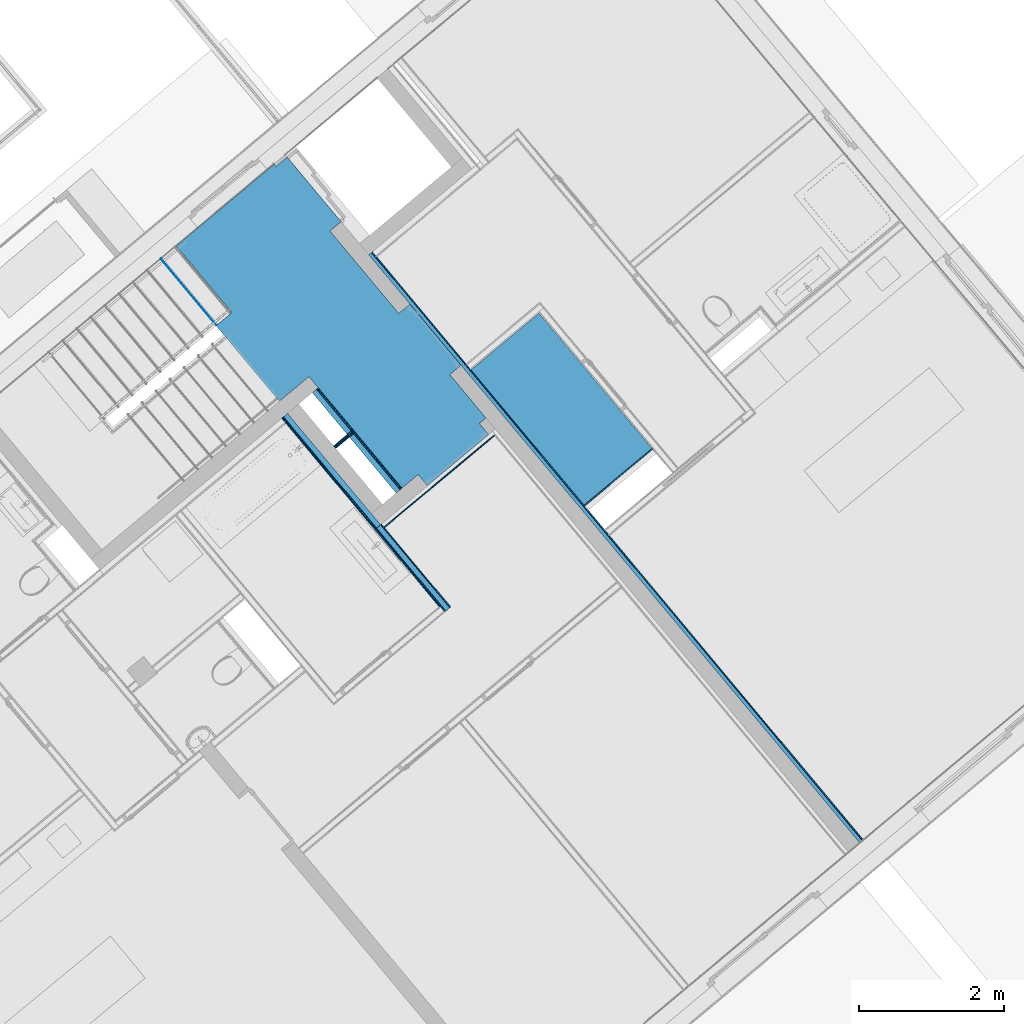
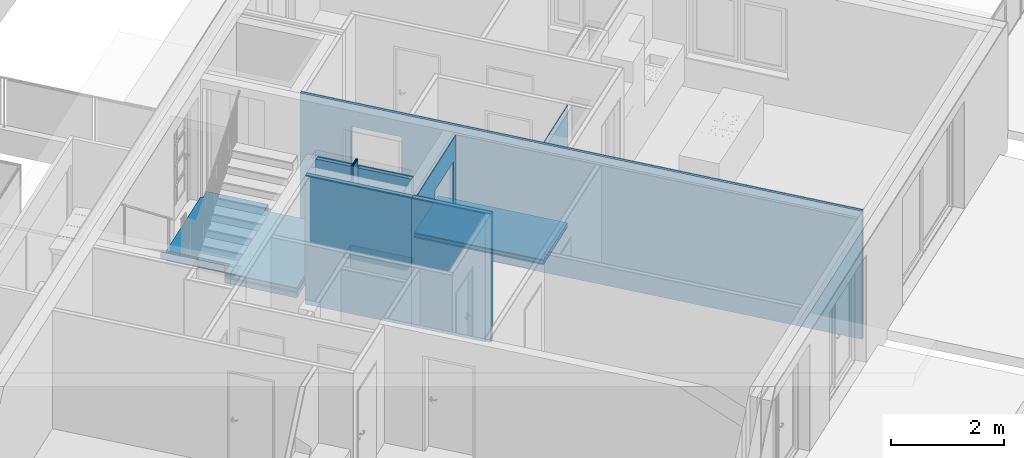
# One storey, part 36 of 75: 25 building element parts, 2 openings, 10 elements without a shape of their own.
"""IFC4 building model written with IfcOpenShell, lengths in metres."""

from ifc_helpers import new_model, entity, si_unit, converted_unit, derived_unit, direction, frame, origin_with_axes, place, context, subcontext, project, spatial, polygons, material, type_object, element, aggregate, save


model = new_model("IFC4")

# Units and contexts
model_context = context("Model", 3, precision=1e-05, world=origin_with_axes(), true_north=direction((0.0, 1.0)))
body_context = subcontext(model_context, "Body", "Model", "MODEL_VIEW")
ifc_project = project(units=[si_unit("LENGTHUNIT", "METRE"), si_unit("AREAUNIT", "SQUARE_METRE"), si_unit("VOLUMEUNIT", "CUBIC_METRE"), converted_unit("PLANEANGLEUNIT", "DEGREE", entity("IfcPlaneAngleMeasure", 0.0174532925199), si_unit("PLANEANGLEUNIT", "RADIAN"), dimensions=[0, 0, 0, 0, 0, 0, 0]), converted_unit("TIMEUNIT", "Year", entity("IfcTimeMeasure", 31556926.0), si_unit("TIMEUNIT", "SECOND"), dimensions=[0, 0, 1, 0, 0, 0, 0]), si_unit("MASSUNIT", "GRAM", prefix="KILO"), si_unit("THERMODYNAMICTEMPERATUREUNIT", "DEGREE_CELSIUS"), si_unit("LUMINOUSINTENSITYUNIT", "LUMEN"), si_unit("ENERGYUNIT", "JOULE", prefix="MEGA"), derived_unit("THERMALCONDUCTANCEUNIT", [(si_unit("POWERUNIT", "WATT"), 1), (si_unit("LENGTHUNIT", "METRE"), -1), (si_unit("THERMODYNAMICTEMPERATUREUNIT", "KELVIN"), -1)]), derived_unit("SPECIFICHEATCAPACITYUNIT", [(si_unit("ENERGYUNIT", "JOULE"), 1), (si_unit("MASSUNIT", "GRAM", prefix="KILO"), -1), (si_unit("THERMODYNAMICTEMPERATUREUNIT", "KELVIN"), -1)]), derived_unit("MASSDENSITYUNIT", [(si_unit("MASSUNIT", "GRAM", prefix="KILO"), 1), (si_unit("VOLUMEUNIT", "CUBIC_METRE"), -1)])], contexts=[model_context])

# Site, building, storey
site_placement = place(None, frame((-0.00153261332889, -0.00661245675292, 0.0), z_axis=(0.0, 0.0, 1.0), x_axis=(1.0, 0.0, 0.0)))
site = spatial("IfcSite", under=ifc_project, at=site_placement, Name="Gelände", CompositionType="ELEMENT")
building_placement = place(site_placement, origin_with_axes())
building = spatial("IfcBuilding", under=site, at=building_placement, Name="Gebäude", CompositionType="ELEMENT")
storey_placement = place(building_placement, frame((0.0, 0.0, -0.22), z_axis=(0.0, 0.0, 1.0), x_axis=(1.0, 0.0, 0.0)))
storey = spatial("IfcBuildingStorey", under=building, at=storey_placement, Name="EG", CompositionType="ELEMENT", Elevation=-0.22)

# Wall, building element parts
wall_type_1 = type_object("IfcWallType", Name="LB Dreifach Vorsatzschale Schacht 45", PredefinedType="NOTDEFINED")
wall_1_placement = place(storey_placement, frame((1.03476523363, 21.9638652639, 0.0), z_axis=(0.0, 0.0, 1.0), x_axis=(0.767670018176, 0.640845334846, 0.0)))
wall_1 = element("IfcWall", 1, at=wall_1_placement, inside=storey, type_object=wall_type_1, Name="Wand-002", PredefinedType="NOTDEFINED")
ifc_material_1 = material(Name="Gipskarton")
building_element_part_1_placement = place(wall_1_placement, origin_with_axes())
building_element_part_1 = element("IfcBuildingElementPart", 2, at=building_element_part_1_placement, material=ifc_material_1, Name="Gipskarton", PredefinedType="NOTDEFINED", context=body_context, shape_type="Tessellation", body=[
    polygons([(0.320121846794, 0.045, 2.76), (0.320121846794, 0.03, 2.76), (0.320121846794, 0.03, 0.0), (0.320121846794, 0.045, 0.0), (0.245121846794, 0.03, 2.76), (0.245121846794, 0.045, 2.76), (0.245121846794, 0.03, 2.96), (0.0, 0.03, 2.96), (0.0, 0.03, 0.0), (0.0, 0.045, 0.0), (0.0, 0.045, 2.96), (0.245121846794, 0.045, 2.96)], [[[1, 2, 3, 4]], [[5, 2, 1, 6]], [[5, 7, 8, 9, 3, 2]], [[4, 3, 9, 10]], [[6, 1, 4, 10, 11, 12]], [[12, 7, 5, 6]], [[7, 12, 11, 8]], [[11, 10, 9, 8]]], closed=True),
])
building_element_part_2_placement = place(wall_1_placement, origin_with_axes())
building_element_part_2 = element("IfcBuildingElementPart", 3, at=building_element_part_2_placement, material=ifc_material_1, Name="Gipskarton", PredefinedType="NOTDEFINED", context=body_context, shape_type="Tessellation", body=[
    polygons([(0.320121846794, 0.03, 2.76), (0.320121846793, 0.015, 2.76), (0.320121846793, 0.015, 0.0), (0.320121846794, 0.03, 0.0), (0.245121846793, 0.015, 2.76), (0.245121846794, 0.03, 2.76), (0.245121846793, 0.015, 2.96), (0.0, 0.015, 2.96), (0.0, 0.015, 0.0), (0.0, 0.03, 0.0), (0.0, 0.03, 2.96), (0.245121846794, 0.03, 2.96)], [[[1, 2, 3, 4]], [[5, 2, 1, 6]], [[5, 7, 8, 9, 3, 2]], [[4, 3, 9, 10]], [[6, 1, 4, 10, 11, 12]], [[12, 7, 5, 6]], [[7, 12, 11, 8]], [[11, 10, 9, 8]]], closed=True),
])
building_element_part_3_placement = place(wall_1_placement, origin_with_axes())
building_element_part_3 = element("IfcBuildingElementPart", 4, at=building_element_part_3_placement, material=ifc_material_1, Name="Gipskarton", PredefinedType="NOTDEFINED", context=body_context, shape_type="Tessellation", body=[
    polygons([(0.320121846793, 0.015, 2.76), (0.320121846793, 0.0, 2.76), (0.320121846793, 0.0, 0.0), (0.320121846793, 0.015, 0.0), (0.245121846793, 0.0, 2.76), (0.245121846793, 0.015, 2.76), (0.245121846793, 0.0, 2.96), (0.0, 0.0, 2.96), (0.0, 0.0, 0.0), (0.0, 0.015, 0.0), (0.0, 0.015, 2.96), (0.245121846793, 0.015, 2.96)], [[[1, 2, 3, 4]], [[5, 2, 1, 6]], [[5, 7, 8, 9, 3, 2]], [[4, 3, 9, 10]], [[6, 1, 4, 10, 11, 12]], [[12, 7, 5, 6]], [[7, 12, 11, 8]], [[11, 10, 9, 8]]], closed=True),
])
aggregate(wall_1, [building_element_part_1, building_element_part_2, building_element_part_3])

wall_type_2 = type_object("IfcWallType", Name="LB 10,5 cm doppelte Vorsatzschale Bad 105", PredefinedType="NOTDEFINED")
wall_2_placement = place(storey_placement, frame((0.71304114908, 22.7317569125, 0.0), z_axis=(0.0, 0.0, 1.0), x_axis=(0.640845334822, -0.767670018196, 0.0)))
wall_2 = element("IfcWall", 5, at=wall_2_placement, inside=storey, type_object=wall_type_2, Name="Wand-004", PredefinedType="NOTDEFINED")
building_element_part_4_placement = place(wall_2_placement, origin_with_axes())
building_element_part_4 = element("IfcBuildingElementPart", 6, at=building_element_part_4_placement, material=ifc_material_1, Name="Gipskarton", PredefinedType="NOTDEFINED", context=body_context, shape_type="Tessellation", body=[
    polygons([(0.0, 0.105, 2.76), (1.80140621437, 0.105, 2.76), (1.80140621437, 0.105, 0.0), (0.0, 0.105, 0.0), (0.0, 0.09, 2.76), (1.80140621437, 0.09, 2.76), (1.80140621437, 0.09, 0.0), (0.0, 0.09, 0.0)], [[[1, 2, 3, 4]], [[2, 1, 5, 6]], [[7, 3, 2, 6]], [[4, 3, 7, 8]], [[5, 1, 4, 8]], [[6, 5, 8, 7]]], closed=True),
])
building_element_part_5_placement = place(wall_2_placement, origin_with_axes())
building_element_part_5 = element("IfcBuildingElementPart", 7, at=building_element_part_5_placement, material=ifc_material_1, Name="Gipskarton", PredefinedType="NOTDEFINED", context=body_context, shape_type="Tessellation", body=[
    polygons([(0.0, 0.09, 2.76), (1.80140621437, 0.09, 2.76), (1.80140621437, 0.09, 0.0), (0.0, 0.09, 0.0), (0.0, 0.075, 2.76), (1.80140621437, 0.075, 2.76), (1.80140621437, 0.075, 0.0), (0.0, 0.075, 0.0)], [[[1, 2, 3, 4]], [[2, 1, 5, 6]], [[7, 3, 2, 6]], [[4, 3, 7, 8]], [[5, 1, 4, 8]], [[6, 5, 8, 7]]], closed=True),
])
ifc_material_2 = material(Name="Mineralwolle weich")
building_element_part_6_placement = place(wall_2_placement, origin_with_axes())
building_element_part_6 = element("IfcBuildingElementPart", 8, at=building_element_part_6_placement, material=ifc_material_2, Name="Mineralwolle weich", PredefinedType="NOTDEFINED", context=body_context, shape_type="Tessellation", body=[
    polygons([(0.0, 0.075, 2.76), (0.750662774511, 0.075, 2.76), (0.750662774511, 0.075, 0.0), (0.0, 0.075, 0.0), (0.750662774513, 0.0, 2.76), (0.0, 0.0, 2.76), (0.750662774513, 0.0, 0.0), (0.0, 0.0, 0.0)], [[[1, 2, 3, 4]], [[5, 2, 1, 6]], [[2, 5, 7, 3]], [[3, 7, 8, 4]], [[6, 1, 4, 8]], [[5, 6, 8, 7]]], closed=True),
    polygons([(0.795662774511, 0.075, 2.76), (1.80140621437, 0.075, 2.76), (1.80140621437, 0.075, 0.0), (0.795662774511, 0.075, 0.0), (0.795662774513, 0.0, 2.76), (1.80140621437, 0.0, 2.76), (1.80140621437, 0.0, 0.0), (0.795662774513, 0.0, 0.0)], [[[1, 2, 3, 4]], [[2, 1, 5, 6]], [[7, 3, 2, 6]], [[4, 3, 7, 8]], [[5, 1, 4, 8]], [[6, 5, 8, 7]]], closed=True),
])
aggregate(wall_2, [building_element_part_4, building_element_part_5, building_element_part_6])

# Wall, opening, building element parts
wall_type_3 = type_object("IfcWallType", Name="LB 6,5 cm einfach Vorsatzschale 65", PredefinedType="NOTDEFINED")
wall_3_placement = place(storey_placement, frame((8.52691718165, 16.2033509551, 0.0), z_axis=(0.0, 0.0, 1.0), x_axis=(-0.640845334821, 0.767670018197, 0.0)))
wall_3 = element("IfcWall", 9, at=wall_3_placement, inside=storey, type_object=wall_type_3, Name="Wand-004", PredefinedType="NOTDEFINED")
opening_1_placement = place(wall_3_placement, frame((9.5452099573, 0.0, 0.22), z_axis=(0.0, 0.0, 1.0), x_axis=(1.0, 0.0, 0.0)))
element("IfcOpeningElement", 10, at=opening_1_placement, cuts=wall_3, Name="Tür-001", context=body_context, identifier="Reference", shape_type="Tessellation", body=[
    polygons([(0.475, 5.40229540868, 2.05), (0.475, 5.40229540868, -0.22), (-0.475, 5.40229540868, -0.22), (-0.475, 5.40229540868, 2.05), (0.475, -5.46729540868, 2.05), (0.475, -5.46729540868, -0.22), (-0.475, -5.46729540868, -0.22), (-0.475, -5.46729540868, 2.05)], [[[1, 2, 3, 4]], [[5, 6, 2, 1]], [[6, 7, 3, 2]], [[7, 8, 4, 3]], [[8, 5, 1, 4]], [[7, 6, 5, 8]]], closed=True),
])
building_element_part_7_placement = place(wall_3_placement, origin_with_axes())
building_element_part_7 = element("IfcBuildingElementPart", 11, at=building_element_part_7_placement, material=ifc_material_2, Name="Mineralwolle weich", PredefinedType="NOTDEFINED", context=body_context, shape_type="Tessellation", body=[
    polygons([(10.0202099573, -0.05, 2.27), (10.0202099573, -0.05, 0.22), (10.0202099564, -0.05, 0.0), (10.9791855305, -0.05, 0.0), (10.9791855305, -0.05, 2.76), (0.42005655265, -0.05, 2.76), (0.420056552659, -0.05, 0.0), (9.07020996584, -0.05, 0.0), (9.0702099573, -0.05, 0.22), (9.0702099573, -0.05, 2.27), (10.0202099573, 1.37716078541e-08, 2.27), (10.0202099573, 2.38013022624e-08, 0.22), (10.0202099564, 2.38013022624e-08, 0.0), (10.9791855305, 0.0, 0.0), (10.9791855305, 0.0, 2.76), (0.420000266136, 0.0, 2.76), (0.420000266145, 0.0, 0.0), (9.07020996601, 1.37716043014e-08, 0.0), (9.0702099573, 1.37716043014e-08, 0.22), (9.0702099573, 1.37716078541e-08, 2.27)], [[[1, 2, 3, 4, 5, 6, 7, 8, 9, 10]], [[2, 1, 11, 12]], [[2, 12, 13, 3]], [[13, 14, 4, 3]], [[5, 4, 14, 15]], [[5, 15, 16, 6]], [[16, 17, 7, 6]], [[8, 7, 17, 18]], [[19, 9, 8, 18]], [[10, 9, 19, 20]], [[1, 10, 20, 11]], [[20, 19, 18, 17, 16, 15, 14, 13, 12, 11]]], closed=True),
])
building_element_part_8_placement = place(wall_3_placement, origin_with_axes())
building_element_part_8 = element("IfcBuildingElementPart", 12, at=building_element_part_8_placement, material=ifc_material_1, Name="Gipskarton", PredefinedType="NOTDEFINED", context=body_context, shape_type="Tessellation", body=[
    polygons([(10.0202099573, -0.065, 2.27), (10.0202099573, -0.065, 0.22), (10.0202099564, -0.065, 0.0), (10.9791855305, -0.065, 0.0), (10.9791855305, -0.065, 2.76), (6.33854365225, -0.065, 2.76), (5.98873788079, -0.065, 2.76), (0.420073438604, -0.065, 2.76), (0.420073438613, -0.065, 0.0), (9.07020996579, -0.065, 0.0), (9.0702099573, -0.065, 0.22), (9.0702099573, -0.065, 2.27), (10.0202099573, -0.05, 2.27), (10.0202099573, -0.0499999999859, 0.22), (10.0202099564, -0.05, 0.0), (10.9791855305, -0.05, 0.0), (10.9791855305, -0.05, 2.76), (0.42005655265, -0.05, 2.76), (0.420056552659, -0.05, 0.0), (9.07020996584, -0.05, 0.0), (9.0702099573, -0.0499999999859, 0.22), (9.0702099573, -0.05, 2.27)], [[[1, 2, 3, 4, 5, 6, 7, 8, 9, 10, 11, 12]], [[2, 1, 13, 14]], [[2, 14, 15, 3]], [[15, 16, 4, 3]], [[5, 4, 16, 17]], [[18, 8, 7, 6, 5, 17]], [[18, 19, 9, 8]], [[10, 9, 19, 20]], [[21, 11, 10, 20]], [[12, 11, 21, 22]], [[1, 12, 22, 13]], [[22, 21, 20, 19, 18, 17, 16, 15, 14, 13]]], closed=True),
])
aggregate(wall_3, [building_element_part_7, building_element_part_8])

# Wall, opening, building element part
wall_4_placement = place(storey_placement, frame((3.22700750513, 22.1386079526, 0.0), z_axis=(0.0, 0.0, 1.0), x_axis=(-0.767669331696, -0.64084615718, 0.0)))
wall_4 = element("IfcWall", 13, at=wall_4_placement, inside=storey, type_object=wall_type_3, Name="Wand-005", PredefinedType="NOTDEFINED")
opening_2_placement = place(wall_4_placement, frame((0.603737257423, 0.0, 0.22), z_axis=(0.0, 0.0, 1.0), x_axis=(1.0, 0.0, 0.0)))
element("IfcOpeningElement", 14, at=opening_2_placement, cuts=wall_4, Name="Tür-001", context=body_context, identifier="Reference", shape_type="Tessellation", body=[
    polygons([(-0.475, -1.03980321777, 2.05), (-0.475, -1.03980321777, -0.22), (0.475, -1.03980321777, -0.22), (0.475, -1.03980321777, 2.05), (-0.475, 0.974803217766, 2.05), (-0.475, 0.974803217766, -0.22), (0.475, 0.974803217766, -0.22), (0.475, 0.974803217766, 2.05)], [[[1, 2, 3, 4]], [[5, 6, 2, 1]], [[6, 7, 3, 2]], [[7, 8, 4, 3]], [[8, 5, 1, 4]], [[7, 6, 5, 8]]], closed=True),
])
building_element_part_9_placement = place(wall_4_placement, origin_with_axes())
building_element_part_9 = element("IfcBuildingElementPart", 15, at=building_element_part_9_placement, material=ifc_material_1, Name="Gipskarton", PredefinedType="NOTDEFINED", context=body_context, shape_type="Tessellation", body=[
    polygons([(1.07873725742, 0.0, 0.0), (1.07873725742, 0.0, 2.27), (0.128737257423, 0.0, 2.27), (0.128737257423, 0.0, 0.0), (0.0, 0.0, 0.0), (0.0, 0.0, 2.76), (1.97944404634, 0.0, 2.76), (1.97944404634, 0.0, 0.0), (1.07873725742, -0.015, 0.0), (1.07873725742, -0.015, 2.27), (0.128737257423, -0.015, 2.27), (0.128737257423, -0.015, 0.0), (-1.60686610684e-08, -0.015, 0.0), (-1.60686646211e-08, -0.015, 2.76), (1.97944404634, -0.015, 2.76), (1.97944404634, -0.015, 0.0)], [[[1, 2, 3, 4, 5, 6, 7, 8]], [[2, 1, 9, 10]], [[3, 2, 10, 11]], [[4, 3, 11, 12]], [[4, 12, 13, 5]], [[6, 5, 13, 14]], [[6, 14, 15, 7]], [[15, 16, 8, 7]], [[9, 1, 8, 16]], [[10, 9, 16, 15, 14, 13, 12, 11]]], closed=True),
])
aggregate(wall_4, [building_element_part_9])

# Wall, building element parts
wall_5_placement = place(storey_placement, frame((0.371124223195, 22.44598682, 0.0), z_axis=(0.0, 0.0, 1.0), x_axis=(0.641209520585, -0.767365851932, 0.0)))
wall_5 = element("IfcWall", 16, at=wall_5_placement, inside=storey, type_object=wall_type_2, Name="Wand-004", PredefinedType="NOTDEFINED")
building_element_part_10_placement = place(wall_5_placement, origin_with_axes())
building_element_part_10 = element("IfcBuildingElementPart", 17, at=building_element_part_10_placement, material=ifc_material_2, Name="Mineralwolle weich", PredefinedType="NOTDEFINED", context=body_context, shape_type="Tessellation", body=[
    polygons([(0.0, -7.15256476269e-09, 2.76), (2.00114517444, 0.0, 2.76), (2.10114517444, 0.0, 2.76), (2.10114517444, 0.0, 0.0), (0.0, -7.15256476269e-09, 0.0), (2.00114517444, -0.075, 2.76), (2.25696794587e-10, -0.0750000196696, 2.76), (2.10114517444, -0.075, 2.76), (2.10114517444, -0.075, 0.0), (0.0, -0.0750000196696, 0.0)], [[[1, 2, 3, 4, 5]], [[6, 2, 1, 7]], [[2, 6, 8, 3]], [[9, 4, 3, 8]], [[4, 9, 10, 5]], [[7, 1, 5, 10]], [[6, 7, 10, 9, 8]]], closed=True),
])
building_element_part_11_placement = place(wall_5_placement, origin_with_axes())
building_element_part_11 = element("IfcBuildingElementPart", 18, at=building_element_part_11_placement, material=ifc_material_1, Name="Gipskarton", PredefinedType="NOTDEFINED", context=body_context, shape_type="Tessellation", body=[
    polygons([(2.25696794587e-10, -0.0750000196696, 2.76), (2.00114517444, -0.075, 2.76), (2.10114517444, -0.075, 2.76), (2.10114517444, -0.075, 0.0), (0.0, -0.0750000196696, 0.0), (2.00114517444, -0.09, 2.76), (2.7083757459e-10, -0.09, 2.76), (2.10114517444, -0.09, 2.76), (2.10114517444, -0.09, 0.0), (0.0, -0.09, 0.0)], [[[1, 2, 3, 4, 5]], [[6, 2, 1, 7]], [[2, 6, 8, 3]], [[9, 4, 3, 8]], [[4, 9, 10, 5]], [[7, 1, 5, 10]], [[6, 7, 10, 9, 8]]], closed=True),
])
building_element_part_12_placement = place(wall_5_placement, origin_with_axes())
building_element_part_12 = element("IfcBuildingElementPart", 19, at=building_element_part_12_placement, material=ifc_material_1, Name="Gipskarton", PredefinedType="NOTDEFINED", context=body_context, shape_type="Tessellation", body=[
    polygons([(0.0900000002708, -0.09, 2.76), (2.00114517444, -0.09, 2.76), (2.10114517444, -0.09, 2.76), (2.10114517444, -0.09, 0.0), (0.0, -0.09, 0.0), (2.70841127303e-10, -0.09, 2.76), (2.00114517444, -0.105, 2.76), (0.090000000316, -0.105, 2.76), (2.10114517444, -0.105, 2.76), (2.10114517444, -0.105, 0.0), (0.0, -0.105, 0.0), (3.15981907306e-10, -0.105, 2.76)], [[[1, 2, 3, 4, 5, 6]], [[7, 2, 1, 8]], [[2, 7, 9, 3]], [[10, 4, 3, 9]], [[4, 10, 11, 5]], [[11, 12, 6, 5]], [[8, 1, 6, 12]], [[7, 8, 12, 11, 10, 9]]], closed=True),
])
aggregate(wall_5, [building_element_part_10, building_element_part_11, building_element_part_12])

wall_type_4 = type_object("IfcWallType", Name="LB 13 cm doppelte Vorsatzschale Bad  120", PredefinedType="NOTDEFINED")
wall_6_placement = place(storey_placement, frame((1.57370414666, 20.8430493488, 0.0), z_axis=(0.0, 0.0, 1.0), x_axis=(0.641149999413, -0.767415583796, 0.0)))
wall_6 = element("IfcWall", 20, at=wall_6_placement, inside=storey, type_object=wall_type_4, Name="Wand-013", PredefinedType="NOTDEFINED")
ifc_material_3 = material(Name="Gipsputz")
building_element_part_13_placement = place(wall_6_placement, origin_with_axes())
building_element_part_13 = element("IfcBuildingElementPart", 21, at=building_element_part_13_placement, material=ifc_material_3, Name="Gipsputz", PredefinedType="NOTDEFINED", context=body_context, shape_type="Tessellation", body=[
    polygons([(0.0, 0.12, 2.76), (1.48844578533, 0.12, 2.76), (1.48844578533, 0.12, 0.0), (0.0, 0.12, 0.0), (1.48844694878, 0.105, 2.76), (0.0, 0.105, 2.76), (1.48844694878, 0.105, 0.0), (0.0, 0.105, 0.0)], [[[1, 2, 3, 4]], [[5, 2, 1, 6]], [[2, 5, 7, 3]], [[3, 7, 8, 4]], [[6, 1, 4, 8]], [[5, 6, 8, 7]]], closed=True),
])
building_element_part_14_placement = place(wall_6_placement, origin_with_axes())
building_element_part_14 = element("IfcBuildingElementPart", 22, at=building_element_part_14_placement, material=ifc_material_2, Name="Mineralwolle weich", PredefinedType="NOTDEFINED", context=body_context, shape_type="Tessellation", body=[
    polygons([(0.0, 0.105, 2.76), (1.48844694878, 0.105, 2.76), (1.48844694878, 0.105, 0.0), (0.0, 0.105, 0.0), (1.48845276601, 0.03, 2.76), (0.0, 0.03, 2.76), (1.48845276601, 0.03, 0.0), (0.0, 0.03, 0.0)], [[[1, 2, 3, 4]], [[5, 2, 1, 6]], [[2, 5, 7, 3]], [[3, 7, 8, 4]], [[6, 1, 4, 8]], [[5, 6, 8, 7]]], closed=True),
])
building_element_part_15_placement = place(wall_6_placement, origin_with_axes())
building_element_part_15 = element("IfcBuildingElementPart", 23, at=building_element_part_15_placement, material=ifc_material_1, Name="Gipskarton", PredefinedType="NOTDEFINED", context=body_context, shape_type="Tessellation", body=[
    polygons([(0.0, 0.03, 2.76), (1.47345276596, 0.03, 2.76), (1.47345276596, 0.03, 0.0), (0.0, 0.03, 0.0), (1.47345392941, 0.015, 2.76), (0.0, 0.015, 2.76), (1.47345392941, 0.015, 0.0), (0.0, 0.015, 0.0)], [[[1, 2, 3, 4]], [[5, 2, 1, 6]], [[2, 5, 7, 3]], [[3, 7, 8, 4]], [[6, 1, 4, 8]], [[5, 6, 8, 7]]], closed=True),
])
building_element_part_16_placement = place(wall_6_placement, origin_with_axes())
building_element_part_16 = element("IfcBuildingElementPart", 24, at=building_element_part_16_placement, material=ifc_material_1, Name="Gipskarton", PredefinedType="NOTDEFINED", context=body_context, shape_type="Tessellation", body=[
    polygons([(0.0, 0.015, 2.76), (1.38345392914, 0.015, 2.76), (1.38345392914, 0.015, 0.0), (0.0, 0.015, 0.0), (1.38345509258, 0.0, 2.76), (0.0, 0.0, 2.76), (1.38345509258, 0.0, 0.0), (0.0, 0.0, 0.0)], [[[1, 2, 3, 4]], [[5, 2, 1, 6]], [[2, 5, 7, 3]], [[3, 7, 8, 4]], [[6, 1, 4, 8]], [[5, 6, 8, 7]]], closed=True),
])
aggregate(wall_6, [building_element_part_13, building_element_part_14, building_element_part_15, building_element_part_16])

# Wall, building element part
wall_type_5 = type_object("IfcWallType", Name="LB 9,0 cm einfache Vorsatzschale  90", PredefinedType="NOTDEFINED")
wall_7_placement = place(storey_placement, frame((4.46491081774, 21.0692371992, 0.0), z_axis=(0.0, 0.0, 1.0), x_axis=(0.767365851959, 0.641209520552, 0.0)))
wall_7 = element("IfcWall", 25, at=wall_7_placement, inside=storey, type_object=wall_type_5, Name="Wand-006", PredefinedType="NOTDEFINED")
building_element_part_17_placement = place(wall_7_placement, origin_with_axes())
building_element_part_17 = element("IfcBuildingElementPart", 26, at=building_element_part_17_placement, material=ifc_material_1, Name="Gipskarton", PredefinedType="NOTDEFINED", context=body_context, shape_type="Tessellation", body=[
    polygons([(1.28718371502, 0.09, 2.76), (1.28718371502, 0.075, 2.76), (1.28718371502, 0.075, 0.0), (1.28718371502, 0.09, 0.0), (0.0650355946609, 0.0750000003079, 2.76), (0.0650427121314, 0.0900000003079, 2.76), (0.0650355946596, 0.0750000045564, 0.0), (0.0650427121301, 0.0900000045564, 0.0)], [[[1, 2, 3, 4]], [[5, 2, 1, 6]], [[2, 5, 7, 3]], [[3, 7, 8, 4]], [[6, 1, 4, 8]], [[5, 6, 8, 7]]], closed=True),
])
aggregate(wall_7, [building_element_part_17])

# Covering, building element parts
covering_type = type_object("IfcCoveringType", Name="DE 01 Decke Wohnung/Wohnung Fließen 220", PredefinedType="NOTDEFINED")
covering_1_placement = place(storey_placement, frame((2.89957040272, 23.0457904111, 0.22), z_axis=(0.0, 0.0, 1.0), x_axis=(1.0, 0.0, 0.0)))
covering_1 = element("IfcCovering", 27, at=covering_1_placement, inside=storey, type_object=covering_type, Name="Decke-001", PredefinedType="NOTDEFINED")
ifc_material_4 = material(Name="Fliesen")
building_element_part_18_placement = place(covering_1_placement, origin_with_axes())
building_element_part_18 = element("IfcBuildingElementPart", 28, at=building_element_part_18_placement, material=ifc_material_4, Name="Fliesen", PredefinedType="NOTDEFINED", context=body_context, shape_type="Tessellation", body=[
    polygons([(1.55754311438, -1.86578427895, -0.015), (1.55754311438, -1.86578427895, 0.0), (0.0, 0.0, 0.0), (0.0, 0.0, -0.015), (2.49537238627, -1.0821358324, -0.015), (2.49537238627, -1.0821358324, 0.0), (0.936944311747, 0.782908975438, 0.0), (0.936944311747, 0.782908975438, -0.015)], [[[1, 2, 3, 4]], [[5, 6, 2, 1]], [[3, 2, 6, 7]], [[4, 3, 7, 8]], [[4, 8, 5, 1]], [[8, 7, 6, 5]]], closed=True),
])
ifc_material_5 = material(Name="Estrich")
building_element_part_19_placement = place(covering_1_placement, origin_with_axes())
building_element_part_19 = element("IfcBuildingElementPart", 29, at=building_element_part_19_placement, material=ifc_material_5, Name="Estrich", PredefinedType="NOTDEFINED", context=body_context, shape_type="Tessellation", body=[
    polygons([(1.55754311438, -1.86578427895, -0.08), (1.55754311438, -1.86578427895, -0.015), (0.0, 0.0, -0.015), (0.0, 0.0, -0.08), (2.49537238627, -1.0821358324, -0.08), (2.49537238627, -1.0821358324, -0.015), (0.936944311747, 0.782908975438, -0.015), (0.936944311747, 0.782908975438, -0.08)], [[[1, 2, 3, 4]], [[5, 6, 2, 1]], [[3, 2, 6, 7]], [[4, 3, 7, 8]], [[4, 8, 5, 1]], [[8, 7, 6, 5]]], closed=True),
])
ifc_material_6 = material(Name="Trittschalldämmung")
building_element_part_20_placement = place(covering_1_placement, origin_with_axes())
building_element_part_20 = element("IfcBuildingElementPart", 30, at=building_element_part_20_placement, material=ifc_material_6, Name="Trittschalldämmung", PredefinedType="NOTDEFINED", context=body_context, shape_type="Tessellation", body=[
    polygons([(1.55754311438, -1.86578427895, -0.11), (1.55754311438, -1.86578427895, -0.08), (0.0, 0.0, -0.08), (0.0, 0.0, -0.11), (2.49537238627, -1.0821358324, -0.11), (2.49537238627, -1.0821358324, -0.08), (0.936944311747, 0.782908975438, -0.08), (0.936944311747, 0.782908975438, -0.11)], [[[1, 2, 3, 4]], [[5, 6, 2, 1]], [[3, 2, 6, 7]], [[4, 3, 7, 8]], [[4, 8, 5, 1]], [[8, 7, 6, 5]]], closed=True),
])
aggregate(covering_1, [building_element_part_18, building_element_part_19, building_element_part_20])

covering_2_placement = place(storey_placement, frame((0.186433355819, 25.8823468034, 0.22), z_axis=(0.0, 0.0, 1.0), x_axis=(1.0, 0.0, 0.0)))
covering_2 = element("IfcCovering", 31, at=covering_2_placement, inside=storey, type_object=covering_type, Name="Decke-001", PredefinedType="NOTDEFINED")
building_element_part_21_placement = place(covering_2_placement, origin_with_axes())
building_element_part_21 = element("IfcBuildingElementPart", 32, at=building_element_part_21_placement, material=ifc_material_4, Name="Fliesen", PredefinedType="NOTDEFINED", context=body_context, shape_type="Tessellation", body=[
    polygons([(0.0714545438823, -3.27034813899, -0.015), (0.286905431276, -3.09031781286, -0.015), (0.478971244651, -2.92982796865, -0.015), (0.478971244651, -2.92982796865, 0.0), (0.286905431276, -3.09031781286, 0.0), (0.0714545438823, -3.27034813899, 0.0), (-0.800488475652, -2.22683976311, -0.015), (-0.584981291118, -2.04678108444, -0.015), (-1.35152231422, -1.12932957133, -0.015), (0.0, 0.0, -0.015), (0.0263065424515, -0.0315126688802, -0.015), (0.179840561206, 0.0966564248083, -0.015), (0.923221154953, -0.793840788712, -0.015), (0.769687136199, -0.922009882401, -0.015), (1.71748165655, -2.05737494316, -0.015), (1.87101560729, -1.92920584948, -0.015), (2.57594545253, -2.77364288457, -0.015), (2.42241150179, -2.90181197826, -0.015), (2.92064867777, -3.49865129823, -0.015), (2.82949713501, -3.57474389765, -0.015), (2.9576662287, -3.72827791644, -0.015), (2.11322919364, -4.43320776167, -0.015), (1.98506009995, -4.27967374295, -0.015), (1.76163589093, -4.4661866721, -0.015), (0.607213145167, -3.08330113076, -0.015), (0.607213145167, -3.08330113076, 0.0), (1.76163589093, -4.4661866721, 0.0), (1.98506009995, -4.27967374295, 0.0), (2.11322919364, -4.43320776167, 0.0), (2.9576662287, -3.72827791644, 0.0), (2.82949713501, -3.57474389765, 0.0), (2.92064867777, -3.49865129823, 0.0), (2.42241150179, -2.90181197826, 0.0), (2.57594545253, -2.77364288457, 0.0), (1.87101560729, -1.92920584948, 0.0), (1.71748165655, -2.05737494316, 0.0), (0.769687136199, -0.922009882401, 0.0), (0.923221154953, -0.793840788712, 0.0), (0.179840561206, 0.0966564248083, 0.0), (0.0263065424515, -0.0315126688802, 0.0), (0.0, 0.0, 0.0), (-1.35152231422, -1.12932957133, 0.0), (-0.584981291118, -2.04678108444, 0.0), (-0.800488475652, -2.22683976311, 0.0)], [[[1, 2, 3, 4, 5, 6]], [[2, 1, 7, 8, 9, 10, 11, 12, 13, 14, 15, 16, 17, 18, 19, 20, 21, 22, 23, 24, 25, 3]], [[3, 25, 26, 4]], [[6, 5, 4, 26, 27, 28, 29, 30, 31, 32, 33, 34, 35, 36, 37, 38, 39, 40, 41, 42, 43, 44]], [[1, 6, 44, 7]], [[8, 7, 44, 43]], [[9, 8, 43, 42]], [[9, 42, 41, 10]], [[40, 11, 10, 41]], [[11, 40, 39, 12]], [[12, 39, 38, 13]], [[37, 14, 13, 38]], [[37, 36, 15, 14]], [[15, 36, 35, 16]], [[34, 17, 16, 35]], [[33, 18, 17, 34]], [[18, 33, 32, 19]], [[31, 20, 19, 32]], [[20, 31, 30, 21]], [[29, 22, 21, 30]], [[28, 23, 22, 29]], [[27, 24, 23, 28]], [[26, 25, 24, 27]]], closed=True),
])
building_element_part_22_placement = place(covering_2_placement, origin_with_axes())
building_element_part_22 = element("IfcBuildingElementPart", 33, at=building_element_part_22_placement, material=ifc_material_5, Name="Estrich", PredefinedType="NOTDEFINED", context=body_context, shape_type="Tessellation", body=[
    polygons([(0.0714545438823, -3.27034813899, -0.08), (0.286905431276, -3.09031781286, -0.08), (0.478971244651, -2.92982796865, -0.08), (0.478971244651, -2.92982796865, -0.015), (0.286905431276, -3.09031781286, -0.015), (0.0714545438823, -3.27034813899, -0.015), (-0.800488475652, -2.22683976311, -0.08), (-0.584981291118, -2.04678108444, -0.08), (-1.35152231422, -1.12932957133, -0.08), (0.0, 0.0, -0.08), (0.0263065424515, -0.0315126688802, -0.08), (0.179840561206, 0.0966564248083, -0.08), (0.923221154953, -0.793840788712, -0.08), (0.769687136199, -0.922009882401, -0.08), (1.71748165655, -2.05737494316, -0.08), (1.87101560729, -1.92920584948, -0.08), (2.57594545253, -2.77364288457, -0.08), (2.42241150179, -2.90181197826, -0.08), (2.92064867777, -3.49865129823, -0.08), (2.82949713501, -3.57474389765, -0.08), (2.9576662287, -3.72827791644, -0.08), (2.11322919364, -4.43320776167, -0.08), (1.98506009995, -4.27967374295, -0.08), (1.76163589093, -4.4661866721, -0.08), (0.607213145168, -3.08330113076, -0.08), (0.607213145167, -3.08330113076, -0.015), (1.76163589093, -4.4661866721, -0.015), (1.98506009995, -4.27967374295, -0.015), (2.11322919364, -4.43320776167, -0.015), (2.9576662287, -3.72827791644, -0.015), (2.82949713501, -3.57474389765, -0.015), (2.92064867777, -3.49865129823, -0.015), (2.42241150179, -2.90181197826, -0.015), (2.57594545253, -2.77364288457, -0.015), (1.87101560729, -1.92920584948, -0.015), (1.71748165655, -2.05737494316, -0.015), (0.769687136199, -0.922009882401, -0.015), (0.923221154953, -0.793840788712, -0.015), (0.179840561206, 0.0966564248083, -0.015), (0.0263065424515, -0.0315126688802, -0.015), (0.0, 0.0, -0.015), (-1.35152231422, -1.12932957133, -0.015), (-0.584981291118, -2.04678108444, -0.015), (-0.800488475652, -2.22683976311, -0.015)], [[[1, 2, 3, 4, 5, 6]], [[2, 1, 7, 8, 9, 10, 11, 12, 13, 14, 15, 16, 17, 18, 19, 20, 21, 22, 23, 24, 25, 3]], [[25, 26, 4, 3]], [[6, 5, 4, 26, 27, 28, 29, 30, 31, 32, 33, 34, 35, 36, 37, 38, 39, 40, 41, 42, 43, 44]], [[1, 6, 44, 7]], [[8, 7, 44, 43]], [[42, 9, 8, 43]], [[9, 42, 41, 10]], [[40, 11, 10, 41]], [[11, 40, 39, 12]], [[12, 39, 38, 13]], [[37, 14, 13, 38]], [[37, 36, 15, 14]], [[15, 36, 35, 16]], [[34, 17, 16, 35]], [[33, 18, 17, 34]], [[18, 33, 32, 19]], [[31, 20, 19, 32]], [[20, 31, 30, 21]], [[29, 22, 21, 30]], [[28, 23, 22, 29]], [[27, 24, 23, 28]], [[26, 25, 24, 27]]], closed=True),
])
building_element_part_23_placement = place(covering_2_placement, origin_with_axes())
building_element_part_23 = element("IfcBuildingElementPart", 34, at=building_element_part_23_placement, material=ifc_material_6, Name="Trittschalldämmung", PredefinedType="NOTDEFINED", context=body_context, shape_type="Tessellation", body=[
    polygons([(0.0714545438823, -3.27034813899, -0.11), (0.286905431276, -3.09031781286, -0.11), (0.478971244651, -2.92982796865, -0.11), (0.478971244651, -2.92982796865, -0.08), (0.286905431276, -3.09031781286, -0.08), (0.0714545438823, -3.27034813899, -0.08), (-0.800488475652, -2.22683976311, -0.11), (-0.584981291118, -2.04678108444, -0.11), (-1.35152231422, -1.12932957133, -0.11), (0.0, 0.0, -0.11), (0.0263065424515, -0.0315126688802, -0.11), (0.179840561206, 0.0966564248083, -0.11), (0.923221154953, -0.793840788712, -0.11), (0.769687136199, -0.922009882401, -0.11), (1.71748165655, -2.05737494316, -0.11), (1.87101560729, -1.92920584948, -0.11), (2.57594545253, -2.77364288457, -0.11), (2.42241150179, -2.90181197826, -0.11), (2.92064867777, -3.49865129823, -0.11), (2.82949713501, -3.57474389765, -0.11), (2.9576662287, -3.72827791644, -0.11), (2.11322919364, -4.43320776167, -0.11), (1.98506009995, -4.27967374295, -0.11), (1.76163589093, -4.4661866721, -0.11), (0.607213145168, -3.08330113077, -0.11), (0.607213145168, -3.08330113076, -0.08), (1.76163589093, -4.4661866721, -0.08), (1.98506009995, -4.27967374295, -0.08), (2.11322919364, -4.43320776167, -0.08), (2.9576662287, -3.72827791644, -0.08), (2.82949713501, -3.57474389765, -0.08), (2.92064867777, -3.49865129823, -0.08), (2.42241150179, -2.90181197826, -0.08), (2.57594545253, -2.77364288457, -0.08), (1.87101560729, -1.92920584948, -0.08), (1.71748165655, -2.05737494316, -0.08), (0.769687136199, -0.922009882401, -0.08), (0.923221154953, -0.793840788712, -0.08), (0.179840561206, 0.0966564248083, -0.08), (0.0263065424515, -0.0315126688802, -0.08), (0.0, 0.0, -0.08), (-1.35152231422, -1.12932957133, -0.08), (-0.584981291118, -2.04678108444, -0.08), (-0.800488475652, -2.22683976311, -0.08)], [[[1, 2, 3, 4, 5, 6]], [[2, 1, 7, 8, 9, 10, 11, 12, 13, 14, 15, 16, 17, 18, 19, 20, 21, 22, 23, 24, 25, 3]], [[25, 26, 4, 3]], [[6, 5, 4, 26, 27, 28, 29, 30, 31, 32, 33, 34, 35, 36, 37, 38, 39, 40, 41, 42, 43, 44]], [[1, 6, 44, 7]], [[8, 7, 44, 43]], [[42, 9, 8, 43]], [[9, 42, 41, 10]], [[40, 11, 10, 41]], [[11, 40, 39, 12]], [[12, 39, 38, 13]], [[37, 14, 13, 38]], [[37, 36, 15, 14]], [[15, 36, 35, 16]], [[34, 17, 16, 35]], [[33, 18, 17, 34]], [[18, 33, 32, 19]], [[31, 20, 19, 32]], [[20, 31, 30, 21]], [[29, 22, 21, 30]], [[28, 23, 22, 29]], [[27, 24, 23, 28]], [[26, 25, 24, 27]]], closed=True),
])
ifc_material_7 = material(Name="Schüttung")
building_element_part_24_placement = place(covering_2_placement, origin_with_axes())
building_element_part_24 = element("IfcBuildingElementPart", 35, at=building_element_part_24_placement, material=ifc_material_7, Name="Schüttung", PredefinedType="NOTDEFINED", context=body_context, shape_type="Tessellation", body=[
    polygons([(0.0714545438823, -3.27034813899, -0.22), (0.286905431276, -3.09031781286, -0.22), (0.478971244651, -2.92982796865, -0.22), (0.478971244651, -2.92982796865, -0.11), (0.286905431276, -3.09031781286, -0.11), (0.0714545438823, -3.27034813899, -0.11), (-0.800488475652, -2.22683976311, -0.22), (-0.584981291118, -2.04678108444, -0.22), (-1.35152231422, -1.12932957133, -0.22), (0.0, 0.0, -0.22), (0.0263065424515, -0.0315126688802, -0.22), (0.179840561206, 0.0966564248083, -0.22), (0.923221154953, -0.793840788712, -0.22), (0.769687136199, -0.922009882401, -0.22), (1.71748165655, -2.05737494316, -0.22), (1.87101560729, -1.92920584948, -0.22), (2.57594545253, -2.77364288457, -0.22), (2.42241150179, -2.90181197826, -0.22), (2.92064867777, -3.49865129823, -0.22), (2.82949713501, -3.57474389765, -0.22), (2.9576662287, -3.72827791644, -0.22), (2.11322919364, -4.43320776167, -0.22), (1.98506009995, -4.27967374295, -0.22), (1.76163589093, -4.4661866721, -0.22), (0.607213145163, -3.08330113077, -0.22), (0.607213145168, -3.08330113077, -0.11), (-0.800488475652, -2.22683976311, -0.11), (1.76163589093, -4.4661866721, -0.11), (1.98506009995, -4.27967374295, -0.11), (2.11322919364, -4.43320776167, -0.11), (2.9576662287, -3.72827791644, -0.11), (2.82949713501, -3.57474389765, -0.11), (2.92064867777, -3.49865129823, -0.11), (2.42241150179, -2.90181197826, -0.11), (2.57594545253, -2.77364288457, -0.11), (1.87101560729, -1.92920584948, -0.11), (1.71748165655, -2.05737494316, -0.11), (0.769687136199, -0.922009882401, -0.11), (0.923221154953, -0.793840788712, -0.11), (0.179840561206, 0.0966564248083, -0.11), (0.0263065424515, -0.0315126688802, -0.11), (0.0, 0.0, -0.11), (-1.35152231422, -1.12932957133, -0.11), (-0.584981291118, -2.04678108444, -0.11)], [[[1, 2, 3, 4, 5, 6]], [[1, 7, 8, 9, 10, 11, 12, 13, 14, 15, 16, 17, 18, 19, 20, 21, 22, 23, 24, 25, 3, 2]], [[4, 3, 25, 26]], [[27, 6, 5, 4, 26, 28, 29, 30, 31, 32, 33, 34, 35, 36, 37, 38, 39, 40, 41, 42, 43, 44]], [[7, 1, 6, 27]], [[7, 27, 44, 8]], [[9, 8, 44, 43]], [[10, 9, 43, 42]], [[11, 10, 42, 41]], [[11, 41, 40, 12]], [[12, 40, 39, 13]], [[38, 14, 13, 39]], [[15, 14, 38, 37]], [[15, 37, 36, 16]], [[35, 17, 16, 36]], [[18, 17, 35, 34]], [[18, 34, 33, 19]], [[32, 20, 19, 33]], [[21, 20, 32, 31]], [[30, 22, 21, 31]], [[23, 22, 30, 29]], [[24, 23, 29, 28]], [[25, 24, 28, 26]]], closed=True),
])
aggregate(covering_2, [building_element_part_21, building_element_part_22, building_element_part_23, building_element_part_24])

# Space
space_placement = place(storey_placement, frame((0.257887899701, 22.6119986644, 0.22), z_axis=(0.0, 0.0, 1.0), x_axis=(-0.641204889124, 0.767369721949, 0.0)))
space = spatial("IfcSpace", under=storey, at=space_placement, CompositionType="ELEMENT", PredefinedType="NOTDEFINED")

# Stair, building element part
stair_type = type_object("IfcStairType", Name="Treppentyp", PredefinedType="NOTDEFINED")
stair_placement = place(space_placement, frame((2.55982666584, -0.536119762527, -0.17), z_axis=(0.0, 0.0, 1.0), x_axis=(-0.641204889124, -0.767369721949, 0.0)))
stair = element("IfcStair", 36, at=stair_placement, inside=space, type_object=stair_type, Name="Treppe - 001", PredefinedType="NOTDEFINED")
ifc_material_8 = material(Name="BEKLEIDUNG")
building_element_part_25_placement = place(stair_placement, origin_with_axes())
building_element_part_25 = element("IfcBuildingElementPart", 37, at=building_element_part_25_placement, material=ifc_material_8, Name="BEKLEIDUNG", PredefinedType="NOTDEFINED", context=body_context, shape_type="Tessellation", body=[
    polygons([(-0.400526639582, -0.334644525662, 0.329117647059), (-0.408200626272, -0.341056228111, 0.329117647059), (0.361203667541, -1.26193463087, 0.329117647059), (0.368877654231, -1.25552292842, 0.329117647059), (-0.400526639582, -0.334644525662, 0.177058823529), (-0.408200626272, -0.341056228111, 0.177058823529), (0.361203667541, -1.26193463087, 0.177058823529), (0.368877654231, -1.25552292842, 0.177058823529)], [[[1, 2, 3, 4]], [[1, 5, 6, 2]], [[2, 6, 7, 3]], [[4, 3, 7, 8]], [[5, 1, 4, 8]], [[6, 5, 8, 7]]], closed=True),
])
aggregate(stair, [building_element_part_25])

save(model, "model.ifc")
